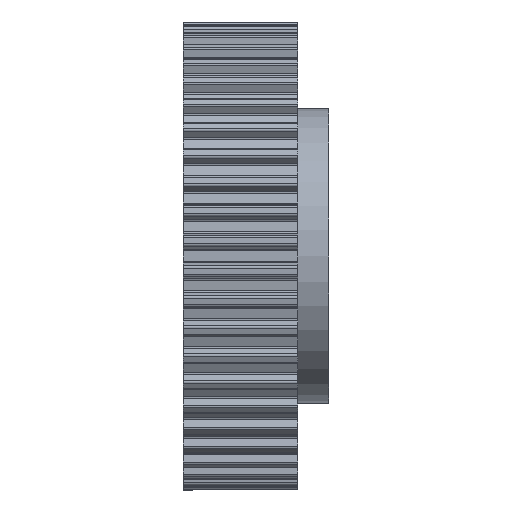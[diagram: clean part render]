
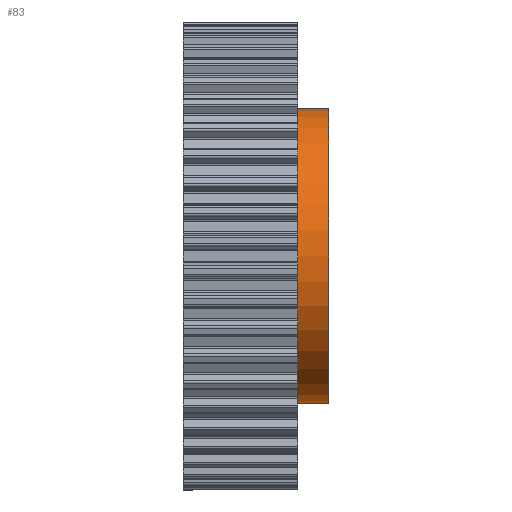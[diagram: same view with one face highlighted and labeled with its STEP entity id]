
A CAD part, front view. The second image highlights one B-rep face of the part: STEP entity #83.
In plain terms, the highlighted cylindrical face has radius 47.5 mm (diameter 95 mm), a full revolution.
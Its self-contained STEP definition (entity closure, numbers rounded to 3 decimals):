
#83 = ADVANCED_FACE( '', ( #485, #486 ), #487, .T. );
#485 = FACE_OUTER_BOUND( '', #1268, .T. );
#486 = FACE_OUTER_BOUND( '', #1269, .T. );
#487 = CYLINDRICAL_SURFACE( '', #1270, 47.5 );
#1268 = EDGE_LOOP( '', ( #2845 ) );
#1269 = EDGE_LOOP( '', ( #2846 ) );
#1270 = AXIS2_PLACEMENT_3D( '', #2847, #2848, #2849 );
#2845 = ORIENTED_EDGE( '', *, *, #6284, .T. );
#2846 = ORIENTED_EDGE( '', *, *, #6286, .F. );
#2847 = CARTESIAN_POINT( '', ( 47., 0., 0. ) );
#2848 = DIRECTION( '', ( -1., 0., 0. ) );
#2849 = DIRECTION( '', ( 0., 0., -1. ) );
#6284 = EDGE_CURVE( '', #8209, #8209, #8210, .T. );
#6286 = EDGE_CURVE( '', #8213, #8213, #8214, .T. );
#8209 = VERTEX_POINT( '', #10430 );
#8210 = CIRCLE( '', #10431, 47.5 );
#8213 = VERTEX_POINT( '', #10434 );
#8214 = CIRCLE( '', #10435, 47.5 );
#10430 = CARTESIAN_POINT( '', ( 37., 0., -47.5 ) );
#10431 = AXIS2_PLACEMENT_3D( '', #12930, #12931, #12932 );
#10434 = CARTESIAN_POINT( '', ( 47., 0., -47.5 ) );
#10435 = AXIS2_PLACEMENT_3D( '', #12936, #12937, #12938 );
#12930 = CARTESIAN_POINT( '', ( 37., 0., 0. ) );
#12931 = DIRECTION( '', ( 1., 0., 0. ) );
#12932 = DIRECTION( '', ( 0., 0., -1. ) );
#12936 = CARTESIAN_POINT( '', ( 47., 0., 0. ) );
#12937 = DIRECTION( '', ( 1., 0., 0. ) );
#12938 = DIRECTION( '', ( 0., 0., -1. ) );
